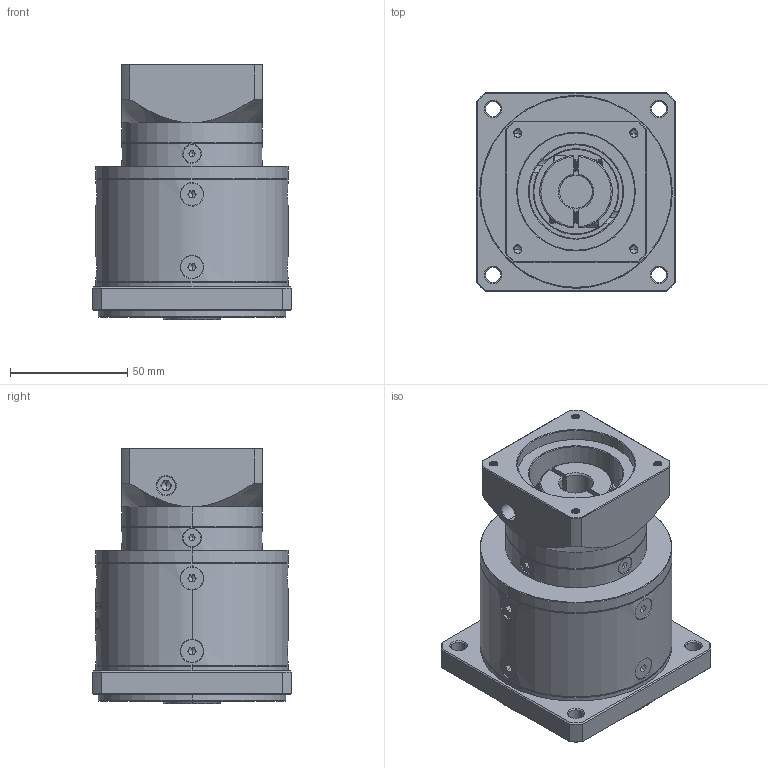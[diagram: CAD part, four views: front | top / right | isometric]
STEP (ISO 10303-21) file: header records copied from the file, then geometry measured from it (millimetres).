
FILE_DESCRIPTION (( 'STEP AP214' ), '1' );
FILE_NAME ('ZF80-K15-L2-14-50-70-M4.step', '2022-09-16T05:39:09', ( '' ), ( 'Microsoft' ), 'SwSTEP 2.0', 'SolidWorks 2016', '' );
FILE_SCHEMA (( 'AUTOMOTIVE_DESIGN' ));
Length unit declared in the file: millimetre
Products named in the file (1): ZF80-K15-L2-14-50-70-M4
Bounding box: 85 x 85 x 109 mm (x, y, z)
Volume: 452711.5 mm3; surface area: 65933.1 mm2
Topology: 18 solids, 18 shells, 1960 faces, 5128 edges, 3263 vertices
Faces by surface type: plane 941, cylinder 366, cone 321, bspline 318, torus 14
Entity records: 99494 total; most frequent: CARTESIAN_POINT 32944, ORIENTED_EDGE 10184, DIRECTION 8182, EDGE_CURVE 5092, VERTEX_POINT 3263, LINE 2764, VECTOR 2764, AXIS2_PLACEMENT_3D 2709
